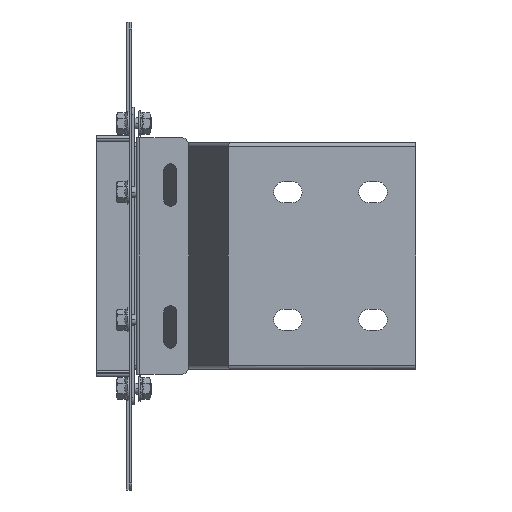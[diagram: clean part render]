
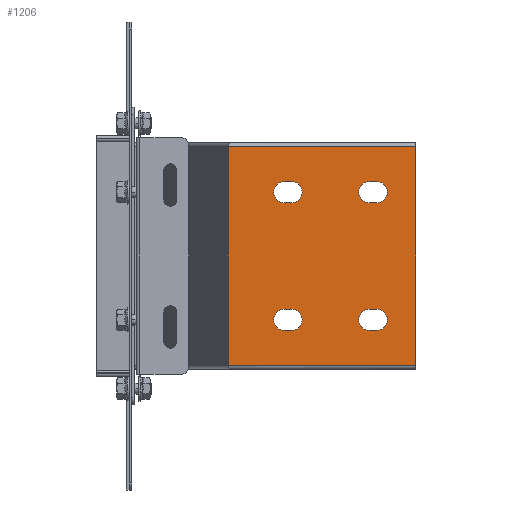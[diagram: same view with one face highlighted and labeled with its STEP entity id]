
A CAD part, front view. The second image highlights one B-rep face of the part: STEP entity #1206.
In plain terms, the highlighted planar face has unit normal (0, -1, 0).
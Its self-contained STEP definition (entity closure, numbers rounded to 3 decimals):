
#1030=AXIS2_PLACEMENT_3D('Circle Axis2P3D',#1028,#1029,$) ;
#1050=AXIS2_PLACEMENT_3D('Plane Axis2P3D',#1047,#1048,#1049) ;
#1088=AXIS2_PLACEMENT_3D('Circle Axis2P3D',#1086,#1087,$) ;
#1106=AXIS2_PLACEMENT_3D('Circle Axis2P3D',#1104,#1105,$) ;
#1122=AXIS2_PLACEMENT_3D('Circle Axis2P3D',#1120,#1121,$) ;
#1140=AXIS2_PLACEMENT_3D('Circle Axis2P3D',#1138,#1139,$) ;
#1156=AXIS2_PLACEMENT_3D('Circle Axis2P3D',#1154,#1155,$) ;
#1183=AXIS2_PLACEMENT_3D('Circle Axis2P3D',#1181,#1182,$) ;
#1197=AXIS2_PLACEMENT_3D('Circle Axis2P3D',#1195,#1196,$) ;
#994=CARTESIAN_POINT('Vertex',(112.5,-153.,52.5)) ;
#997=CARTESIAN_POINT('Line Origine',(110.,-153.,52.5)) ;
#1001=CARTESIAN_POINT('Vertex',(107.5,-153.,52.5)) ;
#1028=CARTESIAN_POINT('Axis2P3D Location',(107.5,-153.,45.)) ;
#1032=CARTESIAN_POINT('Vertex',(107.5,-153.,37.5)) ;
#1047=CARTESIAN_POINT('Axis2P3D Location',(200.,-153.,-77.)) ;
#1052=CARTESIAN_POINT('Line Origine',(134.011,-153.,-77.)) ;
#1056=CARTESIAN_POINT('Vertex',(200.,-153.,-77.)) ;
#1058=CARTESIAN_POINT('Vertex',(68.023,-153.,-77.)) ;
#1061=CARTESIAN_POINT('Line Origine',(200.,-153.,0.)) ;
#1065=CARTESIAN_POINT('Vertex',(200.,-153.,77.)) ;
#1068=CARTESIAN_POINT('Line Origine',(134.011,-153.,77.)) ;
#1072=CARTESIAN_POINT('Vertex',(68.023,-153.,77.)) ;
#1075=CARTESIAN_POINT('Line Origine',(68.023,-153.,0.)) ;
#1086=CARTESIAN_POINT('Axis2P3D Location',(112.5,-153.,45.)) ;
#1090=CARTESIAN_POINT('Vertex',(112.5,-153.,37.5)) ;
#1093=CARTESIAN_POINT('Line Origine',(110.,-153.,37.5)) ;
#1104=CARTESIAN_POINT('Axis2P3D Location',(172.5,-153.,45.)) ;
#1108=CARTESIAN_POINT('Vertex',(172.5,-153.,37.5)) ;
#1110=CARTESIAN_POINT('Vertex',(172.5,-153.,52.5)) ;
#1113=CARTESIAN_POINT('Line Origine',(170.,-153.,37.5)) ;
#1117=CARTESIAN_POINT('Vertex',(167.5,-153.,37.5)) ;
#1120=CARTESIAN_POINT('Axis2P3D Location',(167.5,-153.,45.)) ;
#1124=CARTESIAN_POINT('Vertex',(167.5,-153.,52.5)) ;
#1127=CARTESIAN_POINT('Line Origine',(170.,-153.,52.5)) ;
#1138=CARTESIAN_POINT('Axis2P3D Location',(107.5,-153.,-45.)) ;
#1142=CARTESIAN_POINT('Vertex',(107.5,-153.,-37.5)) ;
#1144=CARTESIAN_POINT('Vertex',(107.5,-153.,-52.5)) ;
#1147=CARTESIAN_POINT('Line Origine',(110.,-153.,-37.5)) ;
#1151=CARTESIAN_POINT('Vertex',(112.5,-153.,-37.5)) ;
#1154=CARTESIAN_POINT('Axis2P3D Location',(112.5,-153.,-45.)) ;
#1158=CARTESIAN_POINT('Vertex',(112.5,-153.,-52.5)) ;
#1161=CARTESIAN_POINT('Line Origine',(110.,-153.,-52.5)) ;
#1172=CARTESIAN_POINT('Line Origine',(170.,-153.,-37.5)) ;
#1176=CARTESIAN_POINT('Vertex',(172.5,-153.,-37.5)) ;
#1178=CARTESIAN_POINT('Vertex',(167.5,-153.,-37.5)) ;
#1181=CARTESIAN_POINT('Axis2P3D Location',(172.5,-153.,-45.)) ;
#1185=CARTESIAN_POINT('Vertex',(172.5,-153.,-52.5)) ;
#1188=CARTESIAN_POINT('Line Origine',(170.,-153.,-52.5)) ;
#1192=CARTESIAN_POINT('Vertex',(167.5,-153.,-52.5)) ;
#1195=CARTESIAN_POINT('Axis2P3D Location',(167.5,-153.,-45.)) ;
#998=DIRECTION('Vector Direction',(1.,0.,0.)) ;
#1029=DIRECTION('Axis2P3D Direction',(0.,-1.,0.)) ;
#1048=DIRECTION('Axis2P3D Direction',(0.,-1.,0.)) ;
#1049=DIRECTION('Axis2P3D XDirection',(0.,0.,1.)) ;
#1053=DIRECTION('Vector Direction',(-1.,0.,0.)) ;
#1062=DIRECTION('Vector Direction',(0.,0.,1.)) ;
#1069=DIRECTION('Vector Direction',(-1.,0.,0.)) ;
#1076=DIRECTION('Vector Direction',(0.,0.,1.)) ;
#1087=DIRECTION('Axis2P3D Direction',(0.,-1.,0.)) ;
#1094=DIRECTION('Vector Direction',(-1.,0.,0.)) ;
#1105=DIRECTION('Axis2P3D Direction',(0.,-1.,0.)) ;
#1114=DIRECTION('Vector Direction',(1.,0.,0.)) ;
#1121=DIRECTION('Axis2P3D Direction',(0.,-1.,0.)) ;
#1128=DIRECTION('Vector Direction',(-1.,0.,0.)) ;
#1139=DIRECTION('Axis2P3D Direction',(0.,-1.,0.)) ;
#1148=DIRECTION('Vector Direction',(-1.,0.,0.)) ;
#1155=DIRECTION('Axis2P3D Direction',(0.,-1.,0.)) ;
#1162=DIRECTION('Vector Direction',(1.,0.,0.)) ;
#1173=DIRECTION('Vector Direction',(1.,0.,0.)) ;
#1182=DIRECTION('Axis2P3D Direction',(0.,-1.,0.)) ;
#1189=DIRECTION('Vector Direction',(-1.,0.,0.)) ;
#1196=DIRECTION('Axis2P3D Direction',(0.,-1.,0.)) ;
#999=VECTOR('Line Direction',#998,1.) ;
#1054=VECTOR('Line Direction',#1053,1.) ;
#1063=VECTOR('Line Direction',#1062,1.) ;
#1070=VECTOR('Line Direction',#1069,1.) ;
#1077=VECTOR('Line Direction',#1076,1.) ;
#1095=VECTOR('Line Direction',#1094,1.) ;
#1115=VECTOR('Line Direction',#1114,1.) ;
#1129=VECTOR('Line Direction',#1128,1.) ;
#1149=VECTOR('Line Direction',#1148,1.) ;
#1163=VECTOR('Line Direction',#1162,1.) ;
#1174=VECTOR('Line Direction',#1173,1.) ;
#1190=VECTOR('Line Direction',#1189,1.) ;
#1081=ORIENTED_EDGE('',*,*,#1060,.F.) ;
#1082=ORIENTED_EDGE('',*,*,#1067,.F.) ;
#1083=ORIENTED_EDGE('',*,*,#1074,.T.) ;
#1084=ORIENTED_EDGE('',*,*,#1079,.F.) ;
#1099=ORIENTED_EDGE('',*,*,#1092,.F.) ;
#1100=ORIENTED_EDGE('',*,*,#1097,.F.) ;
#1101=ORIENTED_EDGE('',*,*,#1034,.F.) ;
#1102=ORIENTED_EDGE('',*,*,#1003,.F.) ;
#1133=ORIENTED_EDGE('',*,*,#1112,.F.) ;
#1134=ORIENTED_EDGE('',*,*,#1119,.F.) ;
#1135=ORIENTED_EDGE('',*,*,#1126,.F.) ;
#1136=ORIENTED_EDGE('',*,*,#1131,.F.) ;
#1167=ORIENTED_EDGE('',*,*,#1146,.F.) ;
#1168=ORIENTED_EDGE('',*,*,#1153,.F.) ;
#1169=ORIENTED_EDGE('',*,*,#1160,.F.) ;
#1170=ORIENTED_EDGE('',*,*,#1165,.F.) ;
#1201=ORIENTED_EDGE('',*,*,#1180,.F.) ;
#1202=ORIENTED_EDGE('',*,*,#1187,.F.) ;
#1203=ORIENTED_EDGE('',*,*,#1194,.F.) ;
#1204=ORIENTED_EDGE('',*,*,#1199,.F.) ;
#1103=FACE_BOUND('',#1098,.T.) ;
#1137=FACE_BOUND('',#1132,.T.) ;
#1171=FACE_BOUND('',#1166,.T.) ;
#1205=FACE_BOUND('',#1200,.T.) ;
#1206=ADVANCED_FACE('N',(#1085,#1103,#1137,#1171,#1205),#1051,.T.) ;
#1031=CIRCLE('generated circle',#1030,7.5) ;
#1089=CIRCLE('generated circle',#1088,7.5) ;
#1107=CIRCLE('generated circle',#1106,7.5) ;
#1123=CIRCLE('generated circle',#1122,7.5) ;
#1141=CIRCLE('generated circle',#1140,7.5) ;
#1157=CIRCLE('generated circle',#1156,7.5) ;
#1184=CIRCLE('generated circle',#1183,7.5) ;
#1198=CIRCLE('generated circle',#1197,7.5) ;
#1003=EDGE_CURVE('',#995,#1002,#1000,.F.) ;
#1034=EDGE_CURVE('',#1002,#1033,#1031,.T.) ;
#1060=EDGE_CURVE('',#1057,#1059,#1055,.T.) ;
#1067=EDGE_CURVE('',#1066,#1057,#1064,.F.) ;
#1074=EDGE_CURVE('',#1066,#1073,#1071,.T.) ;
#1079=EDGE_CURVE('',#1059,#1073,#1078,.T.) ;
#1092=EDGE_CURVE('',#1091,#995,#1089,.T.) ;
#1097=EDGE_CURVE('',#1033,#1091,#1096,.F.) ;
#1112=EDGE_CURVE('',#1109,#1111,#1107,.T.) ;
#1119=EDGE_CURVE('',#1118,#1109,#1116,.T.) ;
#1126=EDGE_CURVE('',#1125,#1118,#1123,.T.) ;
#1131=EDGE_CURVE('',#1111,#1125,#1130,.T.) ;
#1146=EDGE_CURVE('',#1143,#1145,#1141,.T.) ;
#1153=EDGE_CURVE('',#1152,#1143,#1150,.T.) ;
#1160=EDGE_CURVE('',#1159,#1152,#1157,.T.) ;
#1165=EDGE_CURVE('',#1145,#1159,#1164,.T.) ;
#1180=EDGE_CURVE('',#1177,#1179,#1175,.F.) ;
#1187=EDGE_CURVE('',#1186,#1177,#1184,.T.) ;
#1194=EDGE_CURVE('',#1193,#1186,#1191,.F.) ;
#1199=EDGE_CURVE('',#1179,#1193,#1198,.T.) ;
#1080=EDGE_LOOP('',(#1081,#1082,#1083,#1084)) ;
#1098=EDGE_LOOP('',(#1099,#1100,#1101,#1102)) ;
#1132=EDGE_LOOP('',(#1133,#1134,#1135,#1136)) ;
#1166=EDGE_LOOP('',(#1167,#1168,#1169,#1170)) ;
#1200=EDGE_LOOP('',(#1201,#1202,#1203,#1204)) ;
#1085=FACE_OUTER_BOUND('',#1080,.T.) ;
#1000=LINE('Line',#997,#999) ;
#1055=LINE('Line',#1052,#1054) ;
#1064=LINE('Line',#1061,#1063) ;
#1071=LINE('Line',#1068,#1070) ;
#1078=LINE('Line',#1075,#1077) ;
#1096=LINE('Line',#1093,#1095) ;
#1116=LINE('Line',#1113,#1115) ;
#1130=LINE('Line',#1127,#1129) ;
#1150=LINE('Line',#1147,#1149) ;
#1164=LINE('Line',#1161,#1163) ;
#1175=LINE('Line',#1172,#1174) ;
#1191=LINE('Line',#1188,#1190) ;
#1051=PLANE('',#1050) ;
#995=VERTEX_POINT('',#994) ;
#1002=VERTEX_POINT('',#1001) ;
#1033=VERTEX_POINT('',#1032) ;
#1057=VERTEX_POINT('',#1056) ;
#1059=VERTEX_POINT('',#1058) ;
#1066=VERTEX_POINT('',#1065) ;
#1073=VERTEX_POINT('',#1072) ;
#1091=VERTEX_POINT('',#1090) ;
#1109=VERTEX_POINT('',#1108) ;
#1111=VERTEX_POINT('',#1110) ;
#1118=VERTEX_POINT('',#1117) ;
#1125=VERTEX_POINT('',#1124) ;
#1143=VERTEX_POINT('',#1142) ;
#1145=VERTEX_POINT('',#1144) ;
#1152=VERTEX_POINT('',#1151) ;
#1159=VERTEX_POINT('',#1158) ;
#1177=VERTEX_POINT('',#1176) ;
#1179=VERTEX_POINT('',#1178) ;
#1186=VERTEX_POINT('',#1185) ;
#1193=VERTEX_POINT('',#1192) ;
